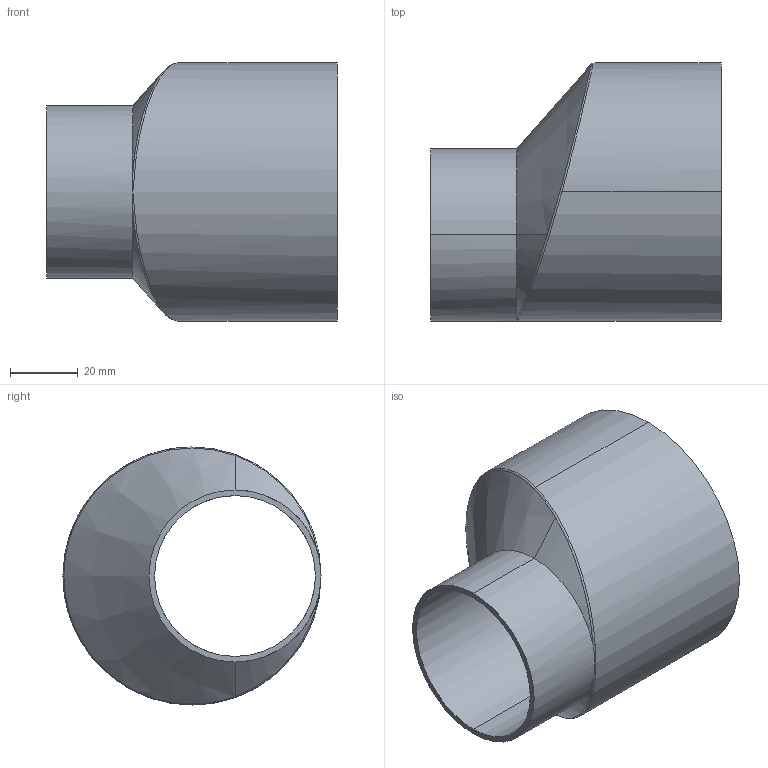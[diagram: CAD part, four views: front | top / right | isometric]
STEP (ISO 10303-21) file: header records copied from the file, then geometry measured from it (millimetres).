
FILE_DESCRIPTION (( 'STEP AP214' ), '1' );
FILE_NAME ('ARVS2.03.0WWA.STEP', '2016-06-01T08:25:11', ( 'eran' ), ( '' ), 'SwSTEP 2.0', 'SolidWorks 2016', '' );
FILE_SCHEMA (( 'AUTOMOTIVE_DESIGN' ));
Length unit declared in the file: millimetre
Products named in the file (1): ARVS2.03.0WWA
Bounding box: 85.72 x 76.2 x 76.2 mm (x, y, z)
Volume: 93473.2 mm3; surface area: 35116 mm2
Topology: 1 solids, 1 shells, 22 faces, 53 edges, 29 vertices
Faces by surface type: cylinder 8, cone 5, bspline 5, torus 2, plane 2
Entity records: 1469 total; most frequent: CARTESIAN_POINT 977, ORIENTED_EDGE 98, DIRECTION 91, EDGE_CURVE 49, AXIS2_PLACEMENT_3D 40, VERTEX_POINT 29, EDGE_LOOP 24, CIRCLE 22
